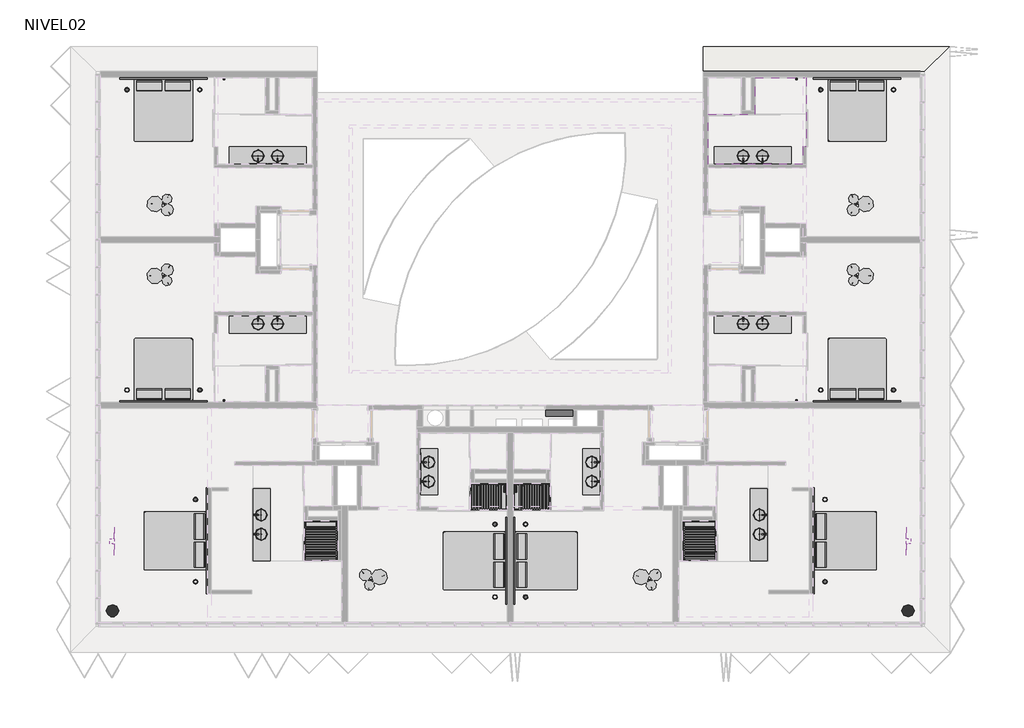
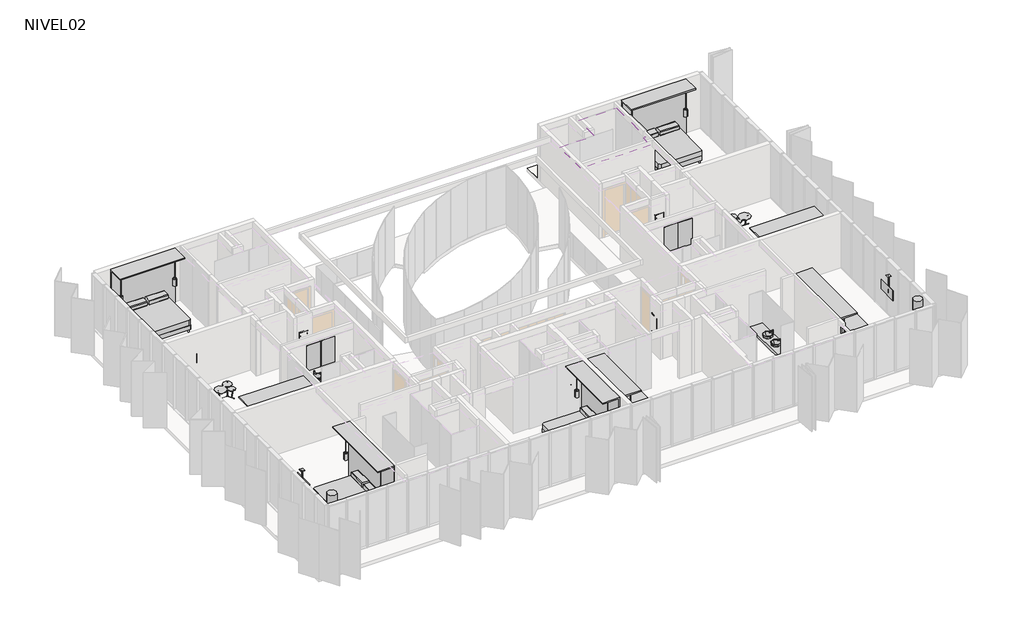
# One storey, part 9 of 9: 65 flow terminals, 16 light fixtures, 14 furniture elements, 10 proxies, 2 columns, 1 covering, 1 slab.
"""IFC4 building model written with IfcOpenShell, lengths in millimetres."""

from ifc_helpers import new_model, si_unit, frame, origin, place, context, project, spatial, polyline, outline, extrude, faceted_brep, transform, mapped, element, save
from components import proxy_f2abb529, proxy_77f56c46, gw40109_410x878x160_c00fe912, gw40109_410x878x160_de583994, m_round_column_d_400_5061d694, m_round_column_d_400_60cc1a0f, flow_terminal_0c8ecf02, flow_terminal_b279ac32, flow_terminal_ed776ef0, flow_terminal_606d7820, flow_terminal_b09b52e7, flow_terminal_6561b867, flow_terminal_bd7e037a, flow_terminal_74c15a22, flow_terminal_776c35a8, flow_terminal_72b990a2, flow_terminal_ff75b144, flow_terminal_cd0a1a3c, flow_terminal_6d8cc725, flow_terminal_ec843122, flow_terminal_4fa0bb3f, flow_terminal_b75d90eb, flow_terminal_60x_120_5cc20310, flow_terminal_60x_120_ec79c8a1, bottle_trap_flow_star_s_chrome_1cd5e6a8, bottle_trap_flow_star_s_chrome_f36f63c9, bottle_trap_flow_star_s_chrome_bf7072b5, bottle_trap_flow_star_s_chrome_7d8e5f45, gf_shower_mixer_5467fb75, gf_shower_mixer_4253410c, type_1_5bda6d84, furniture_922720f4, furniture_a362b857, furniture_83d6330f, furniture_52f5ca33, bubble_e683490c, bubble_cea61c99, lighting_fixture_pendant_contech_lighting_ci6_not_a_type_87ea05c9, lighting_fixture_pendant_contech_lighting_ci6_not_a_type_9c6e3dd4

model = new_model("IFC4")

# Units and contexts
model_context = context("Model", 3, world=origin())
ifc_project = project(units=[si_unit("LENGTHUNIT", "METRE", prefix="MILLI")], contexts=[model_context])

# Site, building, storey
site = spatial("IfcSite", under=ifc_project)
building = spatial("IfcBuilding", under=site)
storey = spatial("IfcBuildingStorey", under=building, Name="NIVEL02", Elevation=2500.0)

# Proxies
placement = place(None, origin())
proxy_shape = proxy_f2abb529(model_context)
element("IfcBuildingElementProxy", 1, Name="A5215 - Bracket, Television, Ceiling Mounted 36 x 6 : A5215 - Bracket, Television, Ceiling Mounted 36\"x 6\"", ObjectType="A5215 - Bracket, Television, Ceiling Mounted 36 x 6 : A5215 - Bracket, Television, Ceiling Mounted 36\"x 6\"", at=placement, inside=storey, context=model_context, shape_type="MappedRepresentation", body=[
    mapped(proxy_shape, transform((6192.4065252, -5081.9984384, 4036.4), x_axis=(0.0, -1.0, 0.0), y_axis=(1.0, 0.0, 0.0), z_axis=(0.0, 0.0, 1.0))),
])
proxy_2_shape = proxy_77f56c46(model_context)
element("IfcBuildingElementProxy", 2, Name="A5215 - Bracket, Television, Ceiling Mounted 36 x 6 : A5215 - Bracket, Television, Ceiling Mounted 36\"x 6\"", ObjectType="A5215 - Bracket, Television, Ceiling Mounted 36 x 6 : A5215 - Bracket, Television, Ceiling Mounted 36\"x 6\"", at=placement, inside=storey, context=model_context, shape_type="MappedRepresentation", body=[
    mapped(proxy_2_shape, transform((-20559.5934748, -5081.9984384, 4036.4), x_axis=(0.0, -1.0, 0.0), y_axis=(1.0, 0.0, 0.0), z_axis=(0.0, 0.0, 1.0))),
])
gw40109_410x878x160_shape = gw40109_410x878x160_c00fe912(model_context)
element("IfcBuildingElementProxy", 3, Name="Building-ContenitoriParete-GEWISS-40CDK-CENTRALINI_IP65_4X : GW40109 - 410x878x160", ObjectType="Building-ContenitoriParete-GEWISS-40CDK-CENTRALINI_IP65_4X : GW40109 - 410x878x160", at=placement, inside=storey, context=model_context, shape_type="MappedRepresentation", body=[
    mapped(gw40109_410x878x160_shape, transform((-2718.5934748, -1918.4487945, 3250.0), x_axis=(0.0, 1.0, 0.0), y_axis=(-1.0, 0.0, 0.0), z_axis=(0.0, 0.0, 1.0))),
])
gw40109_410x878x160_2_shape = gw40109_410x878x160_de583994(model_context)
element("IfcBuildingElementProxy", 4, Name="Building-ContenitoriParete-GEWISS-40CDK-CENTRALINI_IP65_4X : GW40109 - 410x878x160", ObjectType="Building-ContenitoriParete-GEWISS-40CDK-CENTRALINI_IP65_4X : GW40109 - 410x878x160", at=placement, inside=storey, context=model_context, shape_type="MappedRepresentation", body=[
    mapped(gw40109_410x878x160_2_shape, transform((-11648.5934748, -1918.4487945, 3250.0), x_axis=(0.0, 1.0, 0.0), y_axis=(-1.0, 0.0, 0.0), z_axis=(0.0, 0.0, 1.0))),
])
element("IfcBuildingElementProxy", 5, Name="Building-ContenitoriParete-GEWISS-40CDK-CENTRALINI_IP65_4X : GW40109 - 410x878x160", ObjectType="Building-ContenitoriParete-GEWISS-40CDK-CENTRALINI_IP65_4X : GW40109 - 410x878x160", at=placement, inside=storey, context=model_context, shape_type="MappedRepresentation", body=[
    mapped(gw40109_410x878x160_shape, transform((-888.5934748, -1668.4487945, 3250.0), x_axis=(0.0, -1.0, 0.0), y_axis=(1.0, 0.0, 0.0), z_axis=(0.0, 0.0, 1.0))),
])
element("IfcBuildingElementProxy", 6, Name="Building-ContenitoriParete-GEWISS-40CDK-CENTRALINI_IP65_4X : GW40109 - 410x878x160", ObjectType="Building-ContenitoriParete-GEWISS-40CDK-CENTRALINI_IP65_4X : GW40109 - 410x878x160", at=placement, inside=storey, context=model_context, shape_type="MappedRepresentation", body=[
    mapped(gw40109_410x878x160_shape, transform((572.0878844, 6068.9139241, 3250.0), x_axis=(1.0, 0.0, 0.0), y_axis=(0.0, 1.0, 0.0), z_axis=(0.0, 0.0, 1.0))),
])
element("IfcBuildingElementProxy", 7, Name="Building-ContenitoriParete-GEWISS-40CDK-CENTRALINI_IP65_4X : GW40109 - 410x878x160", ObjectType="Building-ContenitoriParete-GEWISS-40CDK-CENTRALINI_IP65_4X : GW40109 - 410x878x160", at=placement, inside=storey, context=model_context, shape_type="MappedRepresentation", body=[
    mapped(gw40109_410x878x160_shape, transform((-14939.2748341, 4198.9139241, 3250.0), x_axis=(-1.0, 0.0, 0.0), y_axis=(0.0, -1.0, 0.0), z_axis=(0.0, 0.0, 1.0))),
])
element("IfcBuildingElementProxy", 8, Name="Building-ContenitoriParete-GEWISS-40CDK-CENTRALINI_IP65_4X : GW40109 - 410x878x160", ObjectType="Building-ContenitoriParete-GEWISS-40CDK-CENTRALINI_IP65_4X : GW40109 - 410x878x160", at=placement, inside=storey, context=model_context, shape_type="MappedRepresentation", body=[
    mapped(gw40109_410x878x160_2_shape, transform((-13478.5934748, -1668.4487945, 3250.0), x_axis=(0.0, -1.0, 0.0), y_axis=(1.0, 0.0, 0.0), z_axis=(0.0, 0.0, 1.0))),
])
element("IfcBuildingElementProxy", 9, Name="Building-ContenitoriParete-GEWISS-40CDK-CENTRALINI_IP65_4X : GW40109 - 410x878x160", ObjectType="Building-ContenitoriParete-GEWISS-40CDK-CENTRALINI_IP65_4X : GW40109 - 410x878x160", at=placement, inside=storey, context=model_context, shape_type="MappedRepresentation", body=[
    mapped(gw40109_410x878x160_2_shape, transform((-14939.2748341, 6068.9139241, 3250.0), x_axis=(-1.0, 0.0, 0.0), y_axis=(0.0, -1.0, 0.0), z_axis=(0.0, 0.0, 1.0))),
])
element("IfcBuildingElementProxy", 10, Name="Building-ContenitoriParete-GEWISS-40CDK-CENTRALINI_IP65_4X : GW40109 - 410x878x160", ObjectType="Building-ContenitoriParete-GEWISS-40CDK-CENTRALINI_IP65_4X : GW40109 - 410x878x160", at=placement, inside=storey, context=model_context, shape_type="MappedRepresentation", body=[
    mapped(gw40109_410x878x160_2_shape, transform((572.0878844, 4198.9139241, 3250.0), x_axis=(1.0, 0.0, 0.0), y_axis=(0.0, 1.0, 0.0), z_axis=(0.0, 0.0, 1.0))),
])

# Columns
m_round_column_d_400_shape = m_round_column_d_400_5061d694(model_context)
element("IfcColumn", 11, ObjectType="M_Round Column : D-400", at=placement, inside=storey, context=model_context, shape_type="MappedRepresentation", body=[
    mapped(m_round_column_d_400_shape, transform((-20164.4513392, -6971.0593676, 0.0), x_axis=(1.0, 0.0, 0.0), y_axis=(0.0, 1.0, 0.0), z_axis=(0.0, 0.0, 1.0))),
])
m_round_column_d_400_2_shape = m_round_column_d_400_60cc1a0f(model_context)
element("IfcColumn", 12, ObjectType="M_Round Column : D-400", at=placement, inside=storey, context=model_context, shape_type="MappedRepresentation", body=[
    mapped(m_round_column_d_400_2_shape, transform((5797.2643895, -6971.0593676, 0.0), x_axis=(-1.0, 0.0, 0.0), y_axis=(0.0, -1.0, 0.0), z_axis=(0.0, 0.0, 1.0))),
])

# Covering
element("IfcCovering", 13, ObjectType="CI_VOLCANITA-ST", at=placement, inside=storey, context=model_context, shape_type="Brep", body=[
    faceted_brep([(2481.4065252, 10423.9139241, 4805.0), (2371.4065252, 10423.9139241, 4805.0), (816.4065252, 10423.9139241, 4805.0), (816.4065252, 9233.9139241, 4805.0), (-723.5934748, 9233.9139241, 4805.0), (-723.5934748, 7603.9139241, 4805.0), (2361.4065252, 7603.9139241, 4805.0), (2361.4065252, 8173.9139241, 4805.0), (2371.4065252, 8173.9139241, 4805.0), (2481.4065252, 8173.9139241, 4805.0), (2481.4065252, 10423.9139241, 4750.0), (2481.4065252, 8173.9139241, 4750.0), (2361.4065252, 8173.9139241, 4750.0), (2361.4065252, 7603.9139241, 4750.0), (-723.5934748, 7603.9139241, 4750.0), (-723.5934748, 9233.9139241, 4750.0), (816.4065252, 9233.9139241, 4750.0), (816.4065252, 10423.9139241, 4750.0), (2371.4065252, 10423.9139241, 4750.0)], [[[0, 1, 2, 3, 4, 5, 6, 7, 8, 9]], [[10, 11, 12, 13, 14, 15, 16, 17, 18]], [[2, 1, 0, 10, 18, 17]], [[3, 2, 17, 16]], [[4, 3, 16, 15]], [[5, 4, 15, 14]], [[6, 5, 14, 13]], [[7, 6, 13, 12]], [[9, 8, 7, 12, 11]], [[0, 9, 11, 10]]]),
])

# Flow terminals
flow_terminal_shape = flow_terminal_0c8ecf02(model_context)
element("IfcFlowTerminal", 14, ObjectType="Sanitary_Shower-trays_Cosentino_Kador : Kador_130*125", at=placement, inside=storey, context=model_context, shape_type="MappedRepresentation", body=[
    mapped(flow_terminal_shape, transform((-13363.5934748, -4686.0862189, 2500.0), x_axis=(0.0, -1.0, 0.0), y_axis=(1.0, 0.0, 0.0), z_axis=(0.0, 0.0, 1.0))),
])
flow_terminal_2_shape = flow_terminal_b279ac32(model_context)
element("IfcFlowTerminal", 15, ObjectType="Sanitary_Shower-trays_Cosentino_Kador : Kador_130*125", at=placement, inside=storey, context=model_context, shape_type="MappedRepresentation", body=[
    mapped(flow_terminal_2_shape, transform((-1003.5934748, -4686.0862189, 2500.0), x_axis=(0.0, -1.0, 0.0), y_axis=(1.0, 0.0, 0.0), z_axis=(0.0, 0.0, 1.0))),
])
flow_terminal_3_shape = flow_terminal_ed776ef0(model_context)
element("IfcFlowTerminal", 16, ObjectType="Sanitary_Shower-trays_Cosentino_Kador : Kador_130*125", at=placement, inside=storey, context=model_context, shape_type="MappedRepresentation", body=[
    mapped(flow_terminal_3_shape, transform((-7883.5934748, -3256.0362189, 2500.0), x_axis=(-1.0, 0.0, 0.0), y_axis=(0.0, -1.0, 0.0), z_axis=(0.0, 0.0, 1.0))),
])
flow_terminal_4_shape = flow_terminal_606d7820(model_context)
element("IfcFlowTerminal", 17, ObjectType="Sanitary_Shower-trays_Cosentino_Kador : Kador_130*125", at=placement, inside=storey, context=model_context, shape_type="MappedRepresentation", body=[
    mapped(flow_terminal_4_shape, transform((-6483.5934748, -3256.0362189, 2500.0), x_axis=(1.0, 0.0, 0.0), y_axis=(0.0, 1.0, 0.0), z_axis=(0.0, 0.0, 1.0))),
])
flow_terminal_5_shape = flow_terminal_b09b52e7(model_context)
element("IfcFlowTerminal", 18, ObjectType="CUBIERTA BAÑO : CUBIERTA BAÑO 150CM", at=placement, inside=storey, context=model_context, shape_type="MappedRepresentation", body=[
    mapped(flow_terminal_5_shape, transform((-10123.5934748, -2480.7864739, 2500.0), x_axis=(0.0, 1.0, 0.0), y_axis=(-1.0, 0.0, 0.0), z_axis=(0.0, 0.0, 1.0))),
])
flow_terminal_6_shape = flow_terminal_6561b867(model_context)
element("IfcFlowTerminal", 19, ObjectType="CUBIERTA BAÑO : CUBIERTA BAÑO 250CM", at=placement, inside=storey, context=model_context, shape_type="MappedRepresentation", body=[
    mapped(flow_terminal_6_shape, transform((776.1068516, 7593.9139241, 2480.0), x_axis=(-1.0, 0.0, 0.0), y_axis=(0.0, -1.0, 0.0), z_axis=(0.0, 0.0, 1.0))),
])
element("IfcFlowTerminal", 20, ObjectType="CUBIERTA BAÑO : CUBIERTA BAÑO 250CM", at=placement, inside=storey, context=model_context, shape_type="MappedRepresentation", body=[
    mapped(flow_terminal_6_shape, transform((-15143.2938013, 2673.9139241, 2480.0), x_axis=(1.0, 0.0, 0.0), y_axis=(0.0, 1.0, 0.0), z_axis=(0.0, 0.0, 1.0))),
])
flow_terminal_7_shape = flow_terminal_bd7e037a(model_context)
element("IfcFlowTerminal", 21, ObjectType="GF_TINA-LAVAMANOS : MEZCLADOR MONOMANDO DE LAVABO - MINUSVALIDOS", at=placement, inside=storey, context=model_context, shape_type="MappedRepresentation", body=[
    mapped(flow_terminal_7_shape, transform((-15543.5934748, -4471.0860763, 3250.0), x_axis=(0.0, 1.0, 0.0), y_axis=(-1.0, 0.0, 0.0), z_axis=(0.0, 0.0, 1.0))),
])
element("IfcFlowTerminal", 22, ObjectType="GF_TINA-LAVAMANOS : MEZCLADOR MONOMANDO DE LAVABO - MINUSVALIDOS", at=placement, inside=storey, context=model_context, shape_type="MappedRepresentation", body=[
    mapped(flow_terminal_7_shape, transform((-15543.5934748, -3841.0860763, 3250.0), x_axis=(0.0, 1.0, 0.0), y_axis=(-1.0, 0.0, 0.0), z_axis=(0.0, 0.0, 1.0))),
])
element("IfcFlowTerminal", 23, ObjectType="GF_TINA-LAVAMANOS : MEZCLADOR MONOMANDO DE LAVABO - MINUSVALIDOS", at=placement, inside=storey, context=model_context, shape_type="MappedRepresentation", body=[
    mapped(flow_terminal_7_shape, transform((-10073.5934748, -2751.0861474, 3250.0), x_axis=(0.0, 1.0, 0.0), y_axis=(-1.0, 0.0, 0.0), z_axis=(0.0, 0.0, 1.0))),
])
element("IfcFlowTerminal", 24, ObjectType="GF_TINA-LAVAMANOS : MEZCLADOR MONOMANDO DE LAVABO - MINUSVALIDOS", at=placement, inside=storey, context=model_context, shape_type="MappedRepresentation", body=[
    mapped(flow_terminal_7_shape, transform((-10073.5934748, -2121.0861474, 3250.0), x_axis=(0.0, 1.0, 0.0), y_axis=(-1.0, 0.0, 0.0), z_axis=(0.0, 0.0, 1.0))),
])
element("IfcFlowTerminal", 25, ObjectType="GF_TINA-LAVAMANOS : MEZCLADOR MONOMANDO DE LAVABO - MINUSVALIDOS", at=placement, inside=storey, context=model_context, shape_type="MappedRepresentation", body=[
    mapped(flow_terminal_7_shape, transform((1046.4065252, 7643.9139241, 3230.0), x_axis=(-1.0, 0.0, 0.0), y_axis=(0.0, -1.0, 0.0), z_axis=(0.0, 0.0, 1.0))),
])
element("IfcFlowTerminal", 26, ObjectType="GF_TINA-LAVAMANOS : MEZCLADOR MONOMANDO DE LAVABO - MINUSVALIDOS", at=placement, inside=storey, context=model_context, shape_type="MappedRepresentation", body=[
    mapped(flow_terminal_7_shape, transform((416.4065252, 7643.9139241, 3230.0), x_axis=(-1.0, 0.0, 0.0), y_axis=(0.0, -1.0, 0.0), z_axis=(0.0, 0.0, 1.0))),
])
element("IfcFlowTerminal", 27, ObjectType="GF_TINA-LAVAMANOS : MEZCLADOR MONOMANDO DE LAVABO - MINUSVALIDOS", at=placement, inside=storey, context=model_context, shape_type="MappedRepresentation", body=[
    mapped(flow_terminal_7_shape, transform((-15413.5934748, 2623.9139241, 3230.0), x_axis=(1.0, 0.0, 0.0), y_axis=(0.0, 1.0, 0.0), z_axis=(0.0, 0.0, 1.0))),
])
element("IfcFlowTerminal", 28, ObjectType="GF_TINA-LAVAMANOS : MEZCLADOR MONOMANDO DE LAVABO - MINUSVALIDOS", at=placement, inside=storey, context=model_context, shape_type="MappedRepresentation", body=[
    mapped(flow_terminal_7_shape, transform((-14783.5934748, 2623.9139241, 3230.0), x_axis=(1.0, 0.0, 0.0), y_axis=(0.0, 1.0, 0.0), z_axis=(0.0, 0.0, 1.0))),
])
flow_terminal_8_shape = flow_terminal_74c15a22(model_context)
element("IfcFlowTerminal", 29, ObjectType="GF_TINA-LAVAMANOS : MEZCLADOR MONOMANDO DE LAVABO - MINUSVALIDOS", at=placement, inside=storey, context=model_context, shape_type="MappedRepresentation", body=[
    mapped(flow_terminal_8_shape, transform((-15413.5934748, 7643.9139241, 3230.0), x_axis=(1.0, 0.0, 0.0), y_axis=(0.0, 1.0, 0.0), z_axis=(0.0, 0.0, 1.0))),
])
element("IfcFlowTerminal", 30, ObjectType="GF_TINA-LAVAMANOS : MEZCLADOR MONOMANDO DE LAVABO - MINUSVALIDOS", at=placement, inside=storey, context=model_context, shape_type="MappedRepresentation", body=[
    mapped(flow_terminal_8_shape, transform((-14783.5934748, 7643.9139241, 3230.0), x_axis=(1.0, 0.0, 0.0), y_axis=(0.0, 1.0, 0.0), z_axis=(0.0, 0.0, 1.0))),
])
element("IfcFlowTerminal", 31, ObjectType="GF_TINA-LAVAMANOS : MEZCLADOR MONOMANDO DE LAVABO - MINUSVALIDOS", at=placement, inside=storey, context=model_context, shape_type="MappedRepresentation", body=[
    mapped(flow_terminal_8_shape, transform((-4293.5934748, -2751.0861474, 3250.0), x_axis=(0.0, 1.0, 0.0), y_axis=(-1.0, 0.0, 0.0), z_axis=(0.0, 0.0, 1.0))),
])
element("IfcFlowTerminal", 32, ObjectType="GF_TINA-LAVAMANOS : MEZCLADOR MONOMANDO DE LAVABO - MINUSVALIDOS", at=placement, inside=storey, context=model_context, shape_type="MappedRepresentation", body=[
    mapped(flow_terminal_8_shape, transform((-4293.5934748, -2121.0861474, 3250.0), x_axis=(0.0, 1.0, 0.0), y_axis=(-1.0, 0.0, 0.0), z_axis=(0.0, 0.0, 1.0))),
])
element("IfcFlowTerminal", 33, ObjectType="GF_TINA-LAVAMANOS : MEZCLADOR MONOMANDO DE LAVABO - MINUSVALIDOS", at=placement, inside=storey, context=model_context, shape_type="MappedRepresentation", body=[
    mapped(flow_terminal_8_shape, transform((1176.4065252, -4471.0860763, 3250.0), x_axis=(0.0, 1.0, 0.0), y_axis=(-1.0, 0.0, 0.0), z_axis=(0.0, 0.0, 1.0))),
])
element("IfcFlowTerminal", 34, ObjectType="GF_TINA-LAVAMANOS : MEZCLADOR MONOMANDO DE LAVABO - MINUSVALIDOS", at=placement, inside=storey, context=model_context, shape_type="MappedRepresentation", body=[
    mapped(flow_terminal_8_shape, transform((1176.4065252, -3841.0860763, 3250.0), x_axis=(0.0, 1.0, 0.0), y_axis=(-1.0, 0.0, 0.0), z_axis=(0.0, 0.0, 1.0))),
])
element("IfcFlowTerminal", 35, ObjectType="GF_TINA-LAVAMANOS : MEZCLADOR MONOMANDO DE LAVABO - MINUSVALIDOS", at=placement, inside=storey, context=model_context, shape_type="MappedRepresentation", body=[
    mapped(flow_terminal_8_shape, transform((1046.4065252, 2623.9139241, 3230.0), x_axis=(-1.0, 0.0, 0.0), y_axis=(0.0, -1.0, 0.0), z_axis=(0.0, 0.0, 1.0))),
])
element("IfcFlowTerminal", 36, ObjectType="GF_TINA-LAVAMANOS : MEZCLADOR MONOMANDO DE LAVABO - MINUSVALIDOS", at=placement, inside=storey, context=model_context, shape_type="MappedRepresentation", body=[
    mapped(flow_terminal_8_shape, transform((416.4065252, 2623.9139241, 3230.0), x_axis=(-1.0, 0.0, 0.0), y_axis=(0.0, -1.0, 0.0), z_axis=(0.0, 0.0, 1.0))),
])
flow_terminal_9_shape = flow_terminal_776c35a8(model_context)
element("IfcFlowTerminal", 37, ObjectType="CUBIERTA BAÑO : CUBIERTA BAÑO 238CM", at=placement, inside=storey, context=model_context, shape_type="MappedRepresentation", body=[
    mapped(flow_terminal_9_shape, transform((-15593.5934748, -4200.7864027, 2500.0), x_axis=(0.0, 1.0, 0.0), y_axis=(-1.0, 0.0, 0.0), z_axis=(0.0, 0.0, 1.0))),
])
flow_terminal_10_shape = flow_terminal_72b990a2(model_context)
element("IfcFlowTerminal", 38, ObjectType="jabonera rejilla : jabonera rejilla", at=placement, inside=storey, context=model_context, shape_type="MappedRepresentation", body=[
    mapped(flow_terminal_10_shape, transform((-7293.5934748, -3006.0862189, 3450.0), x_axis=(0.0, -1.0, 0.0), y_axis=(1.0, 0.0, 0.0), z_axis=(0.0, 0.0, 1.0))),
])
flow_terminal_11_shape = flow_terminal_ff75b144(model_context)
element("IfcFlowTerminal", 39, ObjectType="CUBIERTA BAÑO : CUBIERTA BAÑO 150CM", at=placement, inside=storey, context=model_context, shape_type="MappedRepresentation", body=[
    mapped(flow_terminal_11_shape, transform((-4243.5934748, -2480.7864739, 2500.0), x_axis=(0.0, 1.0, 0.0), y_axis=(-1.0, 0.0, 0.0), z_axis=(0.0, 0.0, 1.0))),
])
flow_terminal_12_shape = flow_terminal_cd0a1a3c(model_context)
element("IfcFlowTerminal", 40, ObjectType="CUBIERTA BAÑO : CUBIERTA BAÑO 250CM", at=placement, inside=storey, context=model_context, shape_type="MappedRepresentation", body=[
    mapped(flow_terminal_12_shape, transform((-15143.2938013, 7593.9139241, 2480.0), x_axis=(1.0, 0.0, 0.0), y_axis=(0.0, 1.0, 0.0), z_axis=(0.0, 0.0, 1.0))),
])
element("IfcFlowTerminal", 41, ObjectType="CUBIERTA BAÑO : CUBIERTA BAÑO 250CM", at=placement, inside=storey, context=model_context, shape_type="MappedRepresentation", body=[
    mapped(flow_terminal_12_shape, transform((776.1068516, 2673.9139241, 2480.0), x_axis=(-1.0, 0.0, 0.0), y_axis=(0.0, -1.0, 0.0), z_axis=(0.0, 0.0, 1.0))),
])
flow_terminal_13_shape = flow_terminal_6d8cc725(model_context)
element("IfcFlowTerminal", 42, ObjectType="CUBIERTA BAÑO : CUBIERTA BAÑO 238CM", at=placement, inside=storey, context=model_context, shape_type="MappedRepresentation", body=[
    mapped(flow_terminal_13_shape, transform((1226.4065252, -4200.7864027, 2500.0), x_axis=(0.0, 1.0, 0.0), y_axis=(-1.0, 0.0, 0.0), z_axis=(0.0, 0.0, 1.0))),
])
flow_terminal_14_shape = flow_terminal_ec843122(model_context)
element("IfcFlowTerminal", 43, ObjectType="GrapBar-60cm-Vitra-OtherSeries-320-3010 : SupportRail-Vitra-OtherSeries-320-3010", at=placement, inside=storey, context=model_context, shape_type="MappedRepresentation", body=[
    mapped(flow_terminal_14_shape, transform((-7623.5047394, -2806.0860759, 3860.0), x_axis=(-1.0, 0.0, 0.0), y_axis=(0.0, 0.0, -1.0), z_axis=(0.0, -1.0, 0.0))),
])
flow_terminal_15_shape = flow_terminal_4fa0bb3f(model_context)
element("IfcFlowTerminal", 44, ObjectType="jabonera rejilla : jabonera rejilla", at=placement, inside=storey, context=model_context, shape_type="MappedRepresentation", body=[
    mapped(flow_terminal_15_shape, transform((-7073.5934748, -3006.0862189, 3450.0), x_axis=(0.0, -1.0, 0.0), y_axis=(1.0, 0.0, 0.0), z_axis=(0.0, 0.0, 1.0))),
])
flow_terminal_16_shape = flow_terminal_b75d90eb(model_context)
element("IfcFlowTerminal", 45, ObjectType="GrapBar-60cm-Vitra-OtherSeries-320-3010 : SupportRail-Vitra-OtherSeries-320-3010", at=placement, inside=storey, context=model_context, shape_type="MappedRepresentation", body=[
    mapped(flow_terminal_16_shape, transform((-6743.6822103, -2806.0860759, 3860.0), x_axis=(1.0, 0.0, 0.0), y_axis=(0.0, 0.0, 1.0), z_axis=(0.0, -1.0, 0.0))),
])
flow_terminal_60x_120_shape = flow_terminal_60x_120_5cc20310(model_context)
element("IfcFlowTerminal", 46, ObjectType="ESPEJO RECTANGULAR : 60x 120", at=placement, inside=storey, context=model_context, shape_type="MappedRepresentation", body=[
    mapped(flow_terminal_60x_120_shape, transform((-15413.5934748, 7598.9139241, 2900.0), x_axis=(1.0, 0.0, 0.0), y_axis=(0.0, 1.0, 0.0), z_axis=(0.0, 0.0, 1.0))),
])
element("IfcFlowTerminal", 47, ObjectType="ESPEJO RECTANGULAR : 60x 120", at=placement, inside=storey, context=model_context, shape_type="MappedRepresentation", body=[
    mapped(flow_terminal_60x_120_shape, transform((-14783.5934748, 7598.9139241, 2900.0), x_axis=(1.0, 0.0, 0.0), y_axis=(0.0, 1.0, 0.0), z_axis=(0.0, 0.0, 1.0))),
])
element("IfcFlowTerminal", 48, ObjectType="ESPEJO RECTANGULAR : 60x 120", at=placement, inside=storey, context=model_context, shape_type="MappedRepresentation", body=[
    mapped(flow_terminal_60x_120_shape, transform((-10118.5934748, -2751.0861474, 2900.0), x_axis=(0.0, -1.0, 0.0), y_axis=(1.0, 0.0, 0.0), z_axis=(0.0, 0.0, 1.0))),
])
element("IfcFlowTerminal", 49, ObjectType="ESPEJO RECTANGULAR : 60x 120", at=placement, inside=storey, context=model_context, shape_type="MappedRepresentation", body=[
    mapped(flow_terminal_60x_120_shape, transform((1046.4065252, 2668.9139241, 2900.0), x_axis=(-1.0, 0.0, 0.0), y_axis=(0.0, -1.0, 0.0), z_axis=(0.0, 0.0, 1.0))),
])
element("IfcFlowTerminal", 50, ObjectType="ESPEJO RECTANGULAR : 60x 120", at=placement, inside=storey, context=model_context, shape_type="MappedRepresentation", body=[
    mapped(flow_terminal_60x_120_shape, transform((416.4065252, 2668.9139241, 2900.0), x_axis=(-1.0, 0.0, 0.0), y_axis=(0.0, -1.0, 0.0), z_axis=(0.0, 0.0, 1.0))),
])
flow_terminal_60x_120_2_shape = flow_terminal_60x_120_ec79c8a1(model_context)
element("IfcFlowTerminal", 51, ObjectType="ESPEJO RECTANGULAR : 60x 120", at=placement, inside=storey, context=model_context, shape_type="MappedRepresentation", body=[
    mapped(flow_terminal_60x_120_2_shape, transform((-10118.5934748, -2121.0861474, 2900.0), x_axis=(0.0, 1.0, 0.0), y_axis=(-1.0, 0.0, 0.0), z_axis=(0.0, 0.0, 1.0))),
])
element("IfcFlowTerminal", 52, ObjectType="ESPEJO RECTANGULAR : 60x 120", at=placement, inside=storey, context=model_context, shape_type="MappedRepresentation", body=[
    mapped(flow_terminal_60x_120_2_shape, transform((1046.4065252, 7598.9139241, 2900.0), x_axis=(-1.0, 0.0, 0.0), y_axis=(0.0, -1.0, 0.0), z_axis=(0.0, 0.0, 1.0))),
])
element("IfcFlowTerminal", 53, ObjectType="ESPEJO RECTANGULAR : 60x 120", at=placement, inside=storey, context=model_context, shape_type="MappedRepresentation", body=[
    mapped(flow_terminal_60x_120_2_shape, transform((416.4065252, 7598.9139241, 2900.0), x_axis=(-1.0, 0.0, 0.0), y_axis=(0.0, -1.0, 0.0), z_axis=(0.0, 0.0, 1.0))),
])
element("IfcFlowTerminal", 54, ObjectType="ESPEJO RECTANGULAR : 60x 120", at=placement, inside=storey, context=model_context, shape_type="MappedRepresentation", body=[
    mapped(flow_terminal_60x_120_2_shape, transform((-15413.5934748, 2668.9139241, 2900.0), x_axis=(1.0, 0.0, 0.0), y_axis=(0.0, 1.0, 0.0), z_axis=(0.0, 0.0, 1.0))),
])
element("IfcFlowTerminal", 55, ObjectType="ESPEJO RECTANGULAR : 60x 120", at=placement, inside=storey, context=model_context, shape_type="MappedRepresentation", body=[
    mapped(flow_terminal_60x_120_2_shape, transform((-14783.5934748, 2668.9139241, 2900.0), x_axis=(1.0, 0.0, 0.0), y_axis=(0.0, 1.0, 0.0), z_axis=(0.0, 0.0, 1.0))),
])
bottle_trap_flow_star_s_chrome_shape = bottle_trap_flow_star_s_chrome_1cd5e6a8(model_context)
element("IfcFlowTerminal", 56, ObjectType="GF_SIFON-VESILUKKO FLOWSTAR S KROMI : Bottle trap Flow Star S chrome", at=placement, inside=storey, context=model_context, shape_type="MappedRepresentation", body=[
    mapped(bottle_trap_flow_star_s_chrome_shape, transform((-9843.5934748, -2121.0861474, 2808.0), x_axis=(1.0, 0.0, 0.0), y_axis=(0.0, 1.0, 0.0), z_axis=(0.0, 0.0, 1.0))),
])
element("IfcFlowTerminal", 57, ObjectType="GF_SIFON-VESILUKKO FLOWSTAR S KROMI : Bottle trap Flow Star S chrome", at=placement, inside=storey, context=model_context, shape_type="MappedRepresentation", body=[
    mapped(bottle_trap_flow_star_s_chrome_shape, transform((-9843.5934748, -2751.0861474, 2808.0), x_axis=(1.0, 0.0, 0.0), y_axis=(0.0, 1.0, 0.0), z_axis=(0.0, 0.0, 1.0))),
])
element("IfcFlowTerminal", 58, ObjectType="GF_SIFON-VESILUKKO FLOWSTAR S KROMI : Bottle trap Flow Star S chrome", at=placement, inside=storey, context=model_context, shape_type="MappedRepresentation", body=[
    mapped(bottle_trap_flow_star_s_chrome_shape, transform((416.4065252, 7873.9139241, 2788.0), x_axis=(0.0, 1.0, 0.0), y_axis=(-1.0, 0.0, 0.0), z_axis=(0.0, 0.0, 1.0))),
])
element("IfcFlowTerminal", 59, ObjectType="GF_SIFON-VESILUKKO FLOWSTAR S KROMI : Bottle trap Flow Star S chrome", at=placement, inside=storey, context=model_context, shape_type="MappedRepresentation", body=[
    mapped(bottle_trap_flow_star_s_chrome_shape, transform((1046.4065252, 7873.9139241, 2788.0), x_axis=(0.0, 1.0, 0.0), y_axis=(-1.0, 0.0, 0.0), z_axis=(0.0, 0.0, 1.0))),
])
element("IfcFlowTerminal", 60, ObjectType="GF_SIFON-VESILUKKO FLOWSTAR S KROMI : Bottle trap Flow Star S chrome", at=placement, inside=storey, context=model_context, shape_type="MappedRepresentation", body=[
    mapped(bottle_trap_flow_star_s_chrome_shape, transform((-14783.5934748, 2393.9139241, 2788.0), x_axis=(0.0, -1.0, 0.0), y_axis=(1.0, 0.0, 0.0), z_axis=(0.0, 0.0, 1.0))),
])
element("IfcFlowTerminal", 61, ObjectType="GF_SIFON-VESILUKKO FLOWSTAR S KROMI : Bottle trap Flow Star S chrome", at=placement, inside=storey, context=model_context, shape_type="MappedRepresentation", body=[
    mapped(bottle_trap_flow_star_s_chrome_shape, transform((-15413.5934748, 2393.9139241, 2788.0), x_axis=(0.0, -1.0, 0.0), y_axis=(1.0, 0.0, 0.0), z_axis=(0.0, 0.0, 1.0))),
])
bottle_trap_flow_star_s_chrome_2_shape = bottle_trap_flow_star_s_chrome_f36f63c9(model_context)
element("IfcFlowTerminal", 62, ObjectType="GF_SIFON-VESILUKKO FLOWSTAR S KROMI : Bottle trap Flow Star S chrome", at=placement, inside=storey, context=model_context, shape_type="MappedRepresentation", body=[
    mapped(bottle_trap_flow_star_s_chrome_2_shape, transform((-14783.5934748, 7873.9139241, 2788.0), x_axis=(0.0, 1.0, 0.0), y_axis=(-1.0, 0.0, 0.0), z_axis=(0.0, 0.0, 1.0))),
])
element("IfcFlowTerminal", 63, ObjectType="GF_SIFON-VESILUKKO FLOWSTAR S KROMI : Bottle trap Flow Star S chrome", at=placement, inside=storey, context=model_context, shape_type="MappedRepresentation", body=[
    mapped(bottle_trap_flow_star_s_chrome_2_shape, transform((-4523.5934748, -2121.0861474, 2808.0), x_axis=(-1.0, 0.0, 0.0), y_axis=(0.0, -1.0, 0.0), z_axis=(0.0, 0.0, 1.0))),
])
element("IfcFlowTerminal", 64, ObjectType="GF_SIFON-VESILUKKO FLOWSTAR S KROMI : Bottle trap Flow Star S chrome", at=placement, inside=storey, context=model_context, shape_type="MappedRepresentation", body=[
    mapped(bottle_trap_flow_star_s_chrome_2_shape, transform((-4523.5934748, -2751.0861474, 2808.0), x_axis=(-1.0, 0.0, 0.0), y_axis=(0.0, -1.0, 0.0), z_axis=(0.0, 0.0, 1.0))),
])
element("IfcFlowTerminal", 65, ObjectType="GF_SIFON-VESILUKKO FLOWSTAR S KROMI : Bottle trap Flow Star S chrome", at=placement, inside=storey, context=model_context, shape_type="MappedRepresentation", body=[
    mapped(bottle_trap_flow_star_s_chrome_2_shape, transform((-15413.5934748, 7873.9139241, 2788.0), x_axis=(0.0, 1.0, 0.0), y_axis=(-1.0, 0.0, 0.0), z_axis=(0.0, 0.0, 1.0))),
])
element("IfcFlowTerminal", 66, ObjectType="GF_SIFON-VESILUKKO FLOWSTAR S KROMI : Bottle trap Flow Star S chrome", at=placement, inside=storey, context=model_context, shape_type="MappedRepresentation", body=[
    mapped(bottle_trap_flow_star_s_chrome_2_shape, transform((416.4065252, 2393.9139241, 2788.0), x_axis=(0.0, -1.0, 0.0), y_axis=(1.0, 0.0, 0.0), z_axis=(0.0, 0.0, 1.0))),
])
element("IfcFlowTerminal", 67, ObjectType="GF_SIFON-VESILUKKO FLOWSTAR S KROMI : Bottle trap Flow Star S chrome", at=placement, inside=storey, context=model_context, shape_type="MappedRepresentation", body=[
    mapped(bottle_trap_flow_star_s_chrome_2_shape, transform((1046.4065252, 2393.9139241, 2788.0), x_axis=(0.0, -1.0, 0.0), y_axis=(1.0, 0.0, 0.0), z_axis=(0.0, 0.0, 1.0))),
])
bottle_trap_flow_star_s_chrome_3_shape = bottle_trap_flow_star_s_chrome_bf7072b5(model_context)
element("IfcFlowTerminal", 68, ObjectType="GF_SIFON-VESILUKKO FLOWSTAR S KROMI : Bottle trap Flow Star S chrome", at=placement, inside=storey, context=model_context, shape_type="MappedRepresentation", body=[
    mapped(bottle_trap_flow_star_s_chrome_3_shape, transform((946.4065252, -3841.0860763, 2808.0), x_axis=(-1.0, 0.0, 0.0), y_axis=(0.0, -1.0, 0.0), z_axis=(0.0, 0.0, 1.0))),
])
element("IfcFlowTerminal", 69, ObjectType="GF_SIFON-VESILUKKO FLOWSTAR S KROMI : Bottle trap Flow Star S chrome", at=placement, inside=storey, context=model_context, shape_type="MappedRepresentation", body=[
    mapped(bottle_trap_flow_star_s_chrome_3_shape, transform((946.4065252, -4471.0860763, 2808.0), x_axis=(-1.0, 0.0, 0.0), y_axis=(0.0, -1.0, 0.0), z_axis=(0.0, 0.0, 1.0))),
])
bottle_trap_flow_star_s_chrome_4_shape = bottle_trap_flow_star_s_chrome_7d8e5f45(model_context)
element("IfcFlowTerminal", 70, ObjectType="GF_SIFON-VESILUKKO FLOWSTAR S KROMI : Bottle trap Flow Star S chrome", at=placement, inside=storey, context=model_context, shape_type="MappedRepresentation", body=[
    mapped(bottle_trap_flow_star_s_chrome_4_shape, transform((-15313.5934748, -3841.0860763, 2808.0), x_axis=(1.0, 0.0, 0.0), y_axis=(0.0, 1.0, 0.0), z_axis=(0.0, 0.0, 1.0))),
])
element("IfcFlowTerminal", 71, ObjectType="GF_SIFON-VESILUKKO FLOWSTAR S KROMI : Bottle trap Flow Star S chrome", at=placement, inside=storey, context=model_context, shape_type="MappedRepresentation", body=[
    mapped(bottle_trap_flow_star_s_chrome_4_shape, transform((-15313.5934748, -4471.0860763, 2808.0), x_axis=(1.0, 0.0, 0.0), y_axis=(0.0, 1.0, 0.0), z_axis=(0.0, 0.0, 1.0))),
])
gf_shower_mixer_shape = gf_shower_mixer_5467fb75(model_context)
element("IfcFlowTerminal", 72, ObjectType="GF_SHOWER MIXER : Monomando ducha SPA", at=placement, inside=storey, context=model_context, shape_type="MappedRepresentation", body=[
    mapped(gf_shower_mixer_shape, transform((-16540.7120291, 10428.9139241, 2500.0), x_axis=(-1.0, 0.0, 0.0), y_axis=(0.0, -1.0, 0.0), z_axis=(0.0, 0.0, 1.0))),
])
element("IfcFlowTerminal", 73, ObjectType="GF_SHOWER MIXER : Monomando ducha SPA", at=placement, inside=storey, context=model_context, shape_type="MappedRepresentation", body=[
    mapped(gf_shower_mixer_shape, transform((-6190.7107046, -2801.0860759, 2500.0), x_axis=(-1.0, 0.0, 0.0), y_axis=(0.0, -1.0, 0.0), z_axis=(0.0, 0.0, 1.0))),
])
element("IfcFlowTerminal", 74, ObjectType="GF_SHOWER MIXER : Monomando ducha SPA", at=placement, inside=storey, context=model_context, shape_type="MappedRepresentation", body=[
    mapped(gf_shower_mixer_shape, transform((2173.5250794, -161.0860759, 2500.0), x_axis=(1.0, 0.0, 0.0), y_axis=(0.0, 1.0, 0.0), z_axis=(0.0, 0.0, 1.0))),
])
gf_shower_mixer_2_shape = gf_shower_mixer_4253410c(model_context)
element("IfcFlowTerminal", 75, ObjectType="GF_SHOWER MIXER : Monomando ducha SPA", at=placement, inside=storey, context=model_context, shape_type="MappedRepresentation", body=[
    mapped(gf_shower_mixer_2_shape, transform((-8176.4762451, -2801.0860759, 2500.0), x_axis=(1.0, 0.0, 0.0), y_axis=(0.0, 1.0, 0.0), z_axis=(0.0, 0.0, 1.0))),
])
element("IfcFlowTerminal", 76, ObjectType="GF_SHOWER MIXER : Monomando ducha SPA", at=placement, inside=storey, context=model_context, shape_type="MappedRepresentation", body=[
    mapped(gf_shower_mixer_2_shape, transform((2173.5250794, 10428.9139241, 2500.0), x_axis=(1.0, 0.0, 0.0), y_axis=(0.0, 1.0, 0.0), z_axis=(0.0, 0.0, 1.0))),
])
element("IfcFlowTerminal", 77, ObjectType="GF_SHOWER MIXER : Monomando ducha SPA", at=placement, inside=storey, context=model_context, shape_type="MappedRepresentation", body=[
    mapped(gf_shower_mixer_2_shape, transform((-16540.7120291, -161.0860759, 2500.0), x_axis=(-1.0, 0.0, 0.0), y_axis=(0.0, -1.0, 0.0), z_axis=(0.0, 0.0, 1.0))),
])
type_1_shape = type_1_5bda6d84(model_context)
element("IfcFlowTerminal", 78, ObjectType="GABINETE-BASADOEN MURO : Type 1", at=placement, inside=storey, context=model_context, shape_type="MappedRepresentation", body=[
    mapped(type_1_shape, transform((-5708.5934748, -341.0860759, 2500.0), x_axis=(1.0, 0.0, 0.0), y_axis=(0.0, 1.0, 0.0), z_axis=(0.0, 0.0, 1.0))),
])

# Furniture
furniture_shape = furniture_922720f4(model_context)
element("IfcFurniture", 79, ObjectType="CAMA HABITACIONES : 180cmx200cmx60cm (dos camas)", at=placement, inside=storey, context=model_context, shape_type="MappedRepresentation", body=[
    mapped(furniture_shape, transform((3706.8114432, -4952.5543879, 2500.0), x_axis=(0.0, 1.0, 0.0), y_axis=(-1.0, 0.0, 0.0), z_axis=(0.0, 0.0, 1.0))),
])
furniture_2_shape = furniture_a362b857(model_context)
element("IfcFurniture", 80, ObjectType="CAMA HABITACIONES : 180cmx200cmx60cm (dos camas) 3", at=placement, inside=storey, context=model_context, shape_type="MappedRepresentation", body=[
    mapped(furniture_2_shape, transform((-6061.6918102, -5607.5746005, 2500.0), x_axis=(0.0, 1.0, 0.0), y_axis=(-1.0, 0.0, 0.0), z_axis=(0.0, 0.0, 1.0))),
])
element("IfcFurniture", 81, ObjectType="CAMA HABITACIONES : 180cmx200cmx60cm (dos camas) 3", at=placement, inside=storey, context=model_context, shape_type="MappedRepresentation", body=[
    mapped(furniture_2_shape, transform((-18775.0819994, 9413.509006, 2500.0), x_axis=(1.0, 0.0, 0.0), y_axis=(0.0, 1.0, 0.0), z_axis=(0.0, 0.0, 1.0))),
])
element("IfcFurniture", 82, ObjectType="CAMA HABITACIONES : 180cmx200cmx60cm (dos camas) 3", at=placement, inside=storey, context=model_context, shape_type="MappedRepresentation", body=[
    mapped(furniture_2_shape, transform((4407.8950497, 854.3188421, 2500.0), x_axis=(-1.0, 0.0, 0.0), y_axis=(0.0, -1.0, 0.0), z_axis=(0.0, 0.0, 1.0))),
])
furniture_3_shape = furniture_83d6330f(model_context)
element("IfcFurniture", 83, ObjectType="CAMA HABITACIONES : 180cmx200cmx60cm (dos camas)", at=placement, inside=storey, context=model_context, shape_type="MappedRepresentation", body=[
    mapped(furniture_3_shape, transform((-18073.9983929, -4952.5543879, 2500.0), x_axis=(0.0, 1.0, 0.0), y_axis=(-1.0, 0.0, 0.0), z_axis=(0.0, 0.0, 1.0))),
])
furniture_4_shape = furniture_52f5ca33(model_context)
element("IfcFurniture", 84, ObjectType="CAMA HABITACIONES : 180cmx200cmx60cm (dos camas) 3", at=placement, inside=storey, context=model_context, shape_type="MappedRepresentation", body=[
    mapped(furniture_4_shape, transform((-8305.4951395, -5607.5746005, 2500.0), x_axis=(0.0, 1.0, 0.0), y_axis=(-1.0, 0.0, 0.0), z_axis=(0.0, 0.0, 1.0))),
])
element("IfcFurniture", 85, ObjectType="CAMA HABITACIONES : 180cmx200cmx60cm (dos camas) 3", at=placement, inside=storey, context=model_context, shape_type="MappedRepresentation", body=[
    mapped(furniture_4_shape, transform((4407.8950497, 9413.509006, 2500.0), x_axis=(-1.0, 0.0, 0.0), y_axis=(0.0, -1.0, 0.0), z_axis=(0.0, 0.0, 1.0))),
])
element("IfcFurniture", 86, ObjectType="CAMA HABITACIONES : 180cmx200cmx60cm (dos camas) 3", at=placement, inside=storey, context=model_context, shape_type="MappedRepresentation", body=[
    mapped(furniture_4_shape, transform((-18775.0819994, 854.3188421, 2500.0), x_axis=(1.0, 0.0, 0.0), y_axis=(0.0, 1.0, 0.0), z_axis=(0.0, 0.0, 1.0))),
])
bubble_shape = bubble_e683490c(model_context)
element("IfcFurniture", 87, ObjectType="Furniture_Tables_Bla-Station_Bubble : Bubble", at=placement, inside=storey, context=model_context, shape_type="MappedRepresentation", body=[
    mapped(bubble_shape, transform((-2734.3349877, -5887.101012, 2500.0), x_axis=(0.9535509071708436, -0.301231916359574, 0.0), y_axis=(0.301231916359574, 0.9535509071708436, 0.0), z_axis=(0.0, 0.0, 1.0))),
])
element("IfcFurniture", 88, ObjectType="Furniture_Tables_Bla-Station_Bubble : Bubble", at=placement, inside=storey, context=model_context, shape_type="MappedRepresentation", body=[
    mapped(bubble_shape, transform((4241.4065252, 6273.9139241, 2500.0), x_axis=(-1.0, 0.0, 0.0), y_axis=(0.0, -1.0, 0.0), z_axis=(0.0, 0.0, 1.0))),
])
element("IfcFurniture", 89, ObjectType="Furniture_Tables_Bla-Station_Bubble : Bubble", at=placement, inside=storey, context=model_context, shape_type="MappedRepresentation", body=[
    mapped(bubble_shape, transform((-18608.5934748, 3993.9139241, 2500.0), x_axis=(1.0, 0.0, 0.0), y_axis=(0.0, 1.0, 0.0), z_axis=(0.0, 0.0, 1.0))),
])
bubble_2_shape = bubble_cea61c99(model_context)
element("IfcFurniture", 90, ObjectType="Furniture_Tables_Bla-Station_Bubble : Bubble", at=placement, inside=storey, context=model_context, shape_type="MappedRepresentation", body=[
    mapped(bubble_2_shape, transform((-11632.851962, -5887.101012, 2500.0), x_axis=(-0.9535509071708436, -0.301231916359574, 0.0), y_axis=(0.301231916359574, -0.9535509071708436, 0.0), z_axis=(0.0, 0.0, 1.0))),
])
element("IfcFurniture", 91, ObjectType="Furniture_Tables_Bla-Station_Bubble : Bubble", at=placement, inside=storey, context=model_context, shape_type="MappedRepresentation", body=[
    mapped(bubble_2_shape, transform((-18608.5934748, 6273.9139241, 2500.0), x_axis=(1.0, 0.0, 0.0), y_axis=(0.0, 1.0, 0.0), z_axis=(0.0, 0.0, 1.0))),
])
element("IfcFurniture", 92, ObjectType="Furniture_Tables_Bla-Station_Bubble : Bubble", at=placement, inside=storey, context=model_context, shape_type="MappedRepresentation", body=[
    mapped(bubble_2_shape, transform((4241.4065252, 3993.9139241, 2500.0), x_axis=(-1.0, 0.0, 0.0), y_axis=(0.0, -1.0, 0.0), z_axis=(0.0, 0.0, 1.0))),
])

# Light fixtures
lighting_fixture_pendant_contech_lighting_ci6_not_a_type_shape = lighting_fixture_pendant_contech_lighting_ci6_not_a_type_87ea05c9(model_context)
element("IfcLightFixture", 93, ObjectType="Lighting_Fixture-Pendant-ConTech_Lighting-CI6 : Not A Type - Load Type Catalog", at=placement, inside=storey, context=model_context, shape_type="MappedRepresentation", body=[
    mapped(lighting_fixture_pendant_contech_lighting_ci6_not_a_type_shape, transform((-6682.0967282, -6523.5860759, 4980.0799139), x_axis=(-1.0, 0.0, 0.0), y_axis=(0.0, 1.0, 0.0), z_axis=(0.0, 0.0, -1.0))),
])
element("IfcLightFixture", 94, ObjectType="Lighting_Fixture-Pendant-ConTech_Lighting-CI6 : Not A Type - Load Type Catalog", at=placement, inside=storey, context=model_context, shape_type="MappedRepresentation", body=[
    mapped(lighting_fixture_pendant_contech_lighting_ci6_not_a_type_shape, transform((-7685.0902215, -4148.5860759, 4980.0799139), x_axis=(1.0, 0.0, 0.0), y_axis=(0.0, -1.0, 0.0), z_axis=(0.0, 0.0, -1.0))),
])
element("IfcLightFixture", 95, ObjectType="Lighting_Fixture-Pendant-ConTech_Lighting-CI6 : Not A Type - Load Type Catalog", at=placement, inside=storey, context=model_context, shape_type="MappedRepresentation", body=[
    mapped(lighting_fixture_pendant_contech_lighting_ci6_not_a_type_shape, transform((-19691.0934748, 10033.9139241, 4980.0799139), x_axis=(0.0, 1.0, 0.0), y_axis=(1.0, 0.0, 0.0), z_axis=(0.0, 0.0, -1.0))),
])
element("IfcLightFixture", 96, ObjectType="Lighting_Fixture-Pendant-ConTech_Lighting-CI6 : Not A Type - Load Type Catalog", at=placement, inside=storey, context=model_context, shape_type="MappedRepresentation", body=[
    mapped(lighting_fixture_pendant_contech_lighting_ci6_not_a_type_shape, transform((3086.4065252, -6021.0658633, 4980.0799139), x_axis=(-1.0, 0.0, 0.0), y_axis=(0.0, 1.0, 0.0), z_axis=(0.0, 0.0, -1.0))),
])
element("IfcLightFixture", 97, ObjectType="Lighting_Fixture-Pendant-ConTech_Lighting-CI6 : Not A Type - Load Type Catalog", at=placement, inside=storey, context=model_context, shape_type="MappedRepresentation", body=[
    mapped(lighting_fixture_pendant_contech_lighting_ci6_not_a_type_shape, transform((-17453.5934748, -3341.0658633, 4980.0799139), x_axis=(1.0, 0.0, 0.0), y_axis=(0.0, -1.0, 0.0), z_axis=(0.0, 0.0, -1.0))),
])
element("IfcLightFixture", 98, ObjectType="Lighting_Fixture-Pendant-ConTech_Lighting-CI6 : Not A Type - Load Type Catalog", at=placement, inside=storey, context=model_context, shape_type="MappedRepresentation", body=[
    mapped(lighting_fixture_pendant_contech_lighting_ci6_not_a_type_shape, transform((2948.9065252, 10033.9139241, 4980.0799139), x_axis=(0.0, 1.0, 0.0), y_axis=(1.0, 0.0, 0.0), z_axis=(0.0, 0.0, -1.0))),
])
element("IfcLightFixture", 99, ObjectType="Lighting_Fixture-Pendant-ConTech_Lighting-CI6 : Not A Type - Load Type Catalog", at=placement, inside=storey, context=model_context, shape_type="MappedRepresentation", body=[
    mapped(lighting_fixture_pendant_contech_lighting_ci6_not_a_type_shape, transform((-17316.0934748, 233.9139241, 4980.0799139), x_axis=(0.0, -1.0, 0.0), y_axis=(-1.0, 0.0, 0.0), z_axis=(0.0, 0.0, -1.0))),
])
element("IfcLightFixture", 100, ObjectType="Lighting_Fixture-Pendant-ConTech_Lighting-CI6 : Not A Type - Load Type Catalog", at=placement, inside=storey, context=model_context, shape_type="MappedRepresentation", body=[
    mapped(lighting_fixture_pendant_contech_lighting_ci6_not_a_type_shape, transform((5323.9065252, 233.9139241, 4980.0799139), x_axis=(0.0, -1.0, 0.0), y_axis=(-1.0, 0.0, 0.0), z_axis=(0.0, 0.0, -1.0))),
])
lighting_fixture_pendant_contech_lighting_ci6_not_a_type_2_shape = lighting_fixture_pendant_contech_lighting_ci6_not_a_type_9c6e3dd4(model_context)
element("IfcLightFixture", 101, ObjectType="Lighting_Fixture-Pendant-ConTech_Lighting-CI6 : Not A Type - Load Type Catalog", at=placement, inside=storey, context=model_context, shape_type="MappedRepresentation", body=[
    mapped(lighting_fixture_pendant_contech_lighting_ci6_not_a_type_2_shape, transform((-6682.0967282, -4148.5860759, 4980.0799139), x_axis=(-1.0, 0.0, 0.0), y_axis=(0.0, 1.0, 0.0), z_axis=(0.0, 0.0, -1.0))),
])
element("IfcLightFixture", 102, ObjectType="Lighting_Fixture-Pendant-ConTech_Lighting-CI6 : Not A Type - Load Type Catalog", at=placement, inside=storey, context=model_context, shape_type="MappedRepresentation", body=[
    mapped(lighting_fixture_pendant_contech_lighting_ci6_not_a_type_2_shape, transform((-7685.0902215, -6523.5860759, 4980.0799139), x_axis=(1.0, 0.0, 0.0), y_axis=(0.0, -1.0, 0.0), z_axis=(0.0, 0.0, -1.0))),
])
element("IfcLightFixture", 103, ObjectType="Lighting_Fixture-Pendant-ConTech_Lighting-CI6 : Not A Type - Load Type Catalog", at=placement, inside=storey, context=model_context, shape_type="MappedRepresentation", body=[
    mapped(lighting_fixture_pendant_contech_lighting_ci6_not_a_type_2_shape, transform((-17316.0934748, 10033.9139241, 4980.0799139), x_axis=(0.0, 1.0, 0.0), y_axis=(1.0, 0.0, 0.0), z_axis=(0.0, 0.0, -1.0))),
])
element("IfcLightFixture", 104, ObjectType="Lighting_Fixture-Pendant-ConTech_Lighting-CI6 : Not A Type - Load Type Catalog", at=placement, inside=storey, context=model_context, shape_type="MappedRepresentation", body=[
    mapped(lighting_fixture_pendant_contech_lighting_ci6_not_a_type_2_shape, transform((3086.4065252, -3341.0658633, 4980.0799139), x_axis=(-1.0, 0.0, 0.0), y_axis=(0.0, 1.0, 0.0), z_axis=(0.0, 0.0, -1.0))),
])
element("IfcLightFixture", 105, ObjectType="Lighting_Fixture-Pendant-ConTech_Lighting-CI6 : Not A Type - Load Type Catalog", at=placement, inside=storey, context=model_context, shape_type="MappedRepresentation", body=[
    mapped(lighting_fixture_pendant_contech_lighting_ci6_not_a_type_2_shape, transform((-17453.5934748, -6021.0658633, 4980.0799139), x_axis=(1.0, 0.0, 0.0), y_axis=(0.0, -1.0, 0.0), z_axis=(0.0, 0.0, -1.0))),
])
element("IfcLightFixture", 106, ObjectType="Lighting_Fixture-Pendant-ConTech_Lighting-CI6 : Not A Type - Load Type Catalog", at=placement, inside=storey, context=model_context, shape_type="MappedRepresentation", body=[
    mapped(lighting_fixture_pendant_contech_lighting_ci6_not_a_type_2_shape, transform((5323.9065252, 10033.9139241, 4980.0799139), x_axis=(0.0, 1.0, 0.0), y_axis=(1.0, 0.0, 0.0), z_axis=(0.0, 0.0, -1.0))),
])
element("IfcLightFixture", 107, ObjectType="Lighting_Fixture-Pendant-ConTech_Lighting-CI6 : Not A Type - Load Type Catalog", at=placement, inside=storey, context=model_context, shape_type="MappedRepresentation", body=[
    mapped(lighting_fixture_pendant_contech_lighting_ci6_not_a_type_2_shape, transform((-19691.0934748, 233.9139241, 4980.0799139), x_axis=(0.0, -1.0, 0.0), y_axis=(-1.0, 0.0, 0.0), z_axis=(0.0, 0.0, -1.0))),
])
element("IfcLightFixture", 108, ObjectType="Lighting_Fixture-Pendant-ConTech_Lighting-CI6 : Not A Type - Load Type Catalog", at=placement, inside=storey, context=model_context, shape_type="MappedRepresentation", body=[
    mapped(lighting_fixture_pendant_contech_lighting_ci6_not_a_type_2_shape, transform((2948.9065252, 233.9139241, 4980.0799139), x_axis=(0.0, -1.0, 0.0), y_axis=(-1.0, 0.0, 0.0), z_axis=(0.0, 0.0, -1.0))),
])

# Slab
element("IfcSlab", 109, ObjectType="PAV-PORCELANATO EXTERIOR", at=placement, inside=storey, context=model_context, shape_type="SweptSolid", body=[
    extrude(outline(polyline([(7166.4065252, 11433.9139241), (6341.4065252, 10633.9139241), (-883.5934748, 10633.9139241), (-883.5934748, 11433.9139241), (7166.4065252, 11433.9139241)])), frame((0.0, 0.0, 2480.0), z_axis=(0.0, 0.0, 1.0), x_axis=(1.0, 0.0, 0.0)), (0.0, 0.0, 1.0), 20.0),
])

save(model, "model.ifc")
